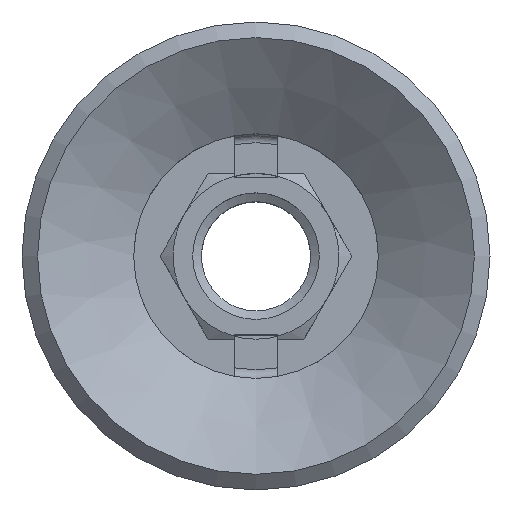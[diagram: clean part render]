
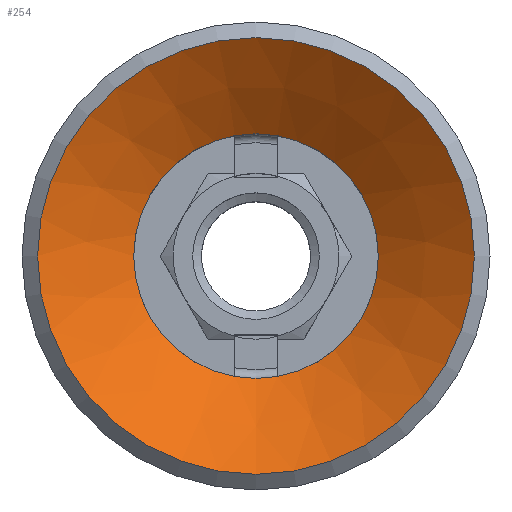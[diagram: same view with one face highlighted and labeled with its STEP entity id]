
A CAD part, top view. The second image highlights one B-rep face of the part: STEP entity #254.
In plain terms, the highlighted conical face has half-angle 54 degrees and reference radius 14 mm.
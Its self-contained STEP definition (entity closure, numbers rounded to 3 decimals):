
#254=ADVANCED_FACE('',(#569,#570),#571,.F.);
#282=EDGE_CURVE('',#616,#616,#617,.T.);
#284=EDGE_CURVE('',#619,#619,#620,.T.);
#569=FACE_BOUND('',#977,.T.);
#570=FACE_OUTER_BOUND('',#978,.T.);
#571=CONICAL_SURFACE('',#979,14.0,0.942);
#616=VERTEX_POINT('',#1034);
#617=CIRCLE('',#1035,14.0);
#619=VERTEX_POINT('',#1038);
#620=CIRCLE('',#1039,25.0);
#977=EDGE_LOOP('',(#1387));
#978=EDGE_LOOP('',(#1388));
#979=AXIS2_PLACEMENT_3D('',#1389,#1390,#1391);
#1034=CARTESIAN_POINT('',(0.0,7.992,-14.0));
#1035=AXIS2_PLACEMENT_3D('',#1443,#1444,#1445);
#1038=CARTESIAN_POINT('',(0.0,0.0,-25.0));
#1039=AXIS2_PLACEMENT_3D('',#1446,#1447,#1448);
#1387=ORIENTED_EDGE('',*,*,#282,.F.);
#1388=ORIENTED_EDGE('',*,*,#284,.T.);
#1389=CARTESIAN_POINT('',(0.0,7.992,0.0));
#1390=DIRECTION('',(0.0,-1.0,-0.0));
#1391=DIRECTION('',(0.0,0.0,-1.0));
#1443=CARTESIAN_POINT('',(0.0,7.992,0.0));
#1444=DIRECTION('',(0.0,-1.0,0.0));
#1445=DIRECTION('',(0.0,0.0,-1.0));
#1446=CARTESIAN_POINT('',(0.0,0.0,0.0));
#1447=DIRECTION('',(0.0,-1.0,0.0));
#1448=DIRECTION('',(0.0,0.0,-1.0));
